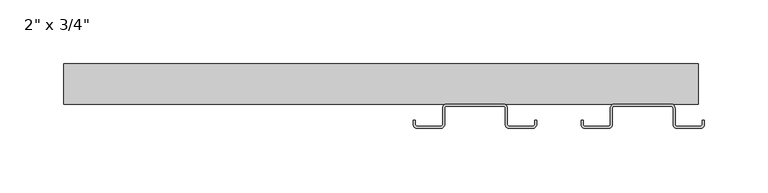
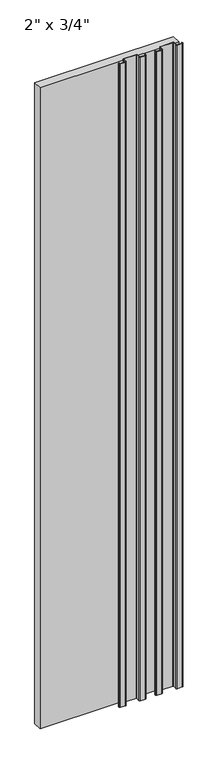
"""IFC4 building model written with IfcOpenShell, lengths in millimetres: plate geometry."""

from ifc_helpers import new_model, si_unit, point, frame, frame_2d, origin, origin_with_axes, place, context, project, spatial, polyline, circle_curve, trimmed, segment, composite_curve, outline, extrude, source, transform, mapped, element, save


def plate_de720d52(model_context):
    return source(origin(), model_context, "Body", "SweptSolid", [
        extrude(outline(composite_curve([segment(polyline([(157.1497998, 3.175), (157.1497998, 6.35), (158.7372998, 6.35), (158.7372998, 3.175)]), True, "CONTINUOUS"), segment(trimmed(circle_curve(frame_2d((160.3247998, 3.175)), 1.5875), [point((158.7372998, 3.175))], [point((160.3247998, 1.5875))], True, "CARTESIAN"), True, "CONTINUOUS"), segment(polyline([(160.3247998, 1.5875), (178.5873998, 1.5875)]), True, "CONTINUOUS"), segment(trimmed(circle_curve(frame_2d((178.5873998, 3.175)), 1.5875), [point((178.5873998, 1.5875))], [point((180.1748998, 3.175))], True, "CARTESIAN"), True, "CONTINUOUS"), segment(polyline([(180.1748998, 3.175), (180.1748998, 15.875)]), True, "CONTINUOUS"), segment(trimmed(circle_curve(frame_2d((183.3498998, 15.875)), 3.175), [point((180.1748998, 15.875))], [point((183.3498998, 19.05))], False, "CARTESIAN"), True, "CONTINUOUS"), segment(polyline([(183.3498998, 19.05), (227.7998998, 19.05)]), True, "CONTINUOUS"), segment(trimmed(circle_curve(frame_2d((227.7998998, 15.875)), 3.175), [point((227.7998998, 19.05))], [point((230.9748998, 15.875))], False, "CARTESIAN"), True, "CONTINUOUS"), segment(polyline([(230.9748998, 15.875), (230.9748998, 3.175)]), True, "CONTINUOUS"), segment(trimmed(circle_curve(frame_2d((232.5623998, 3.175)), 1.5875), [point((230.9748998, 3.175))], [point((232.5623998, 1.5875))], True, "CARTESIAN"), True, "CONTINUOUS"), segment(polyline([(232.5623998, 1.5875), (250.8249998, 1.5875)]), True, "CONTINUOUS"), segment(trimmed(circle_curve(frame_2d((250.8249998, 3.175)), 1.5875), [point((250.8249998, 1.5875))], [point((252.4124998, 3.175))], True, "CARTESIAN"), True, "CONTINUOUS"), segment(polyline([(252.4124998, 3.175), (252.4124998, 6.35), (253.9999998, 6.35), (253.9999998, 3.175)]), True, "CONTINUOUS"), segment(trimmed(circle_curve(frame_2d((250.8249998, 3.175)), 3.175), [point((253.9999998, 3.175))], [point((250.8249998, 0.0))], False, "CARTESIAN"), True, "CONTINUOUS"), segment(polyline([(250.8249998, 0.0), (232.5623998, 0.0)]), True, "CONTINUOUS"), segment(trimmed(circle_curve(frame_2d((232.5623998, 3.175)), 3.175), [point((232.5623998, 0.0))], [point((229.3873998, 3.175))], False, "CARTESIAN"), True, "CONTINUOUS"), segment(polyline([(229.3873998, 3.175), (229.3873998, 15.875)]), True, "CONTINUOUS"), segment(trimmed(circle_curve(frame_2d((227.7998998, 15.875)), 1.5875), [point((229.3873998, 15.875))], [point((227.7998998, 17.4625))], True, "CARTESIAN"), True, "CONTINUOUS"), segment(polyline([(227.7998998, 17.4625), (183.3498998, 17.4625)]), True, "CONTINUOUS"), segment(trimmed(circle_curve(frame_2d((183.3498998, 15.875)), 1.5875), [point((183.3498998, 17.4625))], [point((181.7623998, 15.875))], True, "CARTESIAN"), True, "CONTINUOUS"), segment(polyline([(181.7623998, 15.875), (181.7623998, 3.175)]), True, "CONTINUOUS"), segment(trimmed(circle_curve(frame_2d((178.5873998, 3.175)), 3.175), [point((181.7623998, 3.175))], [point((178.5873998, 0.0))], False, "CARTESIAN"), True, "CONTINUOUS"), segment(polyline([(178.5873998, 0.0), (160.3247998, 0.0)]), True, "CONTINUOUS"), segment(trimmed(circle_curve(frame_2d((160.3247998, 3.175)), 3.175), [point((160.3247998, 0.0))], [point((157.1497998, 3.175))], False, "CARTESIAN"), True, "CONTINUOUS")], self_intersect=False)), origin_with_axes(), (0.0, 0.0, 1.0), 2438.4),
        extrude(outline(composite_curve([segment(polyline([(25.4000002, 3.175), (25.4000002, 6.35), (26.9875002, 6.35), (26.9875002, 3.175)]), True, "CONTINUOUS"), segment(trimmed(circle_curve(frame_2d((28.5750002, 3.175)), 1.5875), [point((26.9875002, 3.175))], [point((28.5750002, 1.5875))], True, "CARTESIAN"), True, "CONTINUOUS"), segment(polyline([(28.5750002, 1.5875), (46.8376002, 1.5875)]), True, "CONTINUOUS"), segment(trimmed(circle_curve(frame_2d((46.8376002, 3.175)), 1.5875), [point((46.8376002, 1.5875))], [point((48.4251002, 3.175))], True, "CARTESIAN"), True, "CONTINUOUS"), segment(polyline([(48.4251002, 3.175), (48.4251002, 15.875)]), True, "CONTINUOUS"), segment(trimmed(circle_curve(frame_2d((51.6001002, 15.875)), 3.175), [point((48.4251002, 15.875))], [point((51.6001002, 19.05))], False, "CARTESIAN"), True, "CONTINUOUS"), segment(polyline([(51.6001002, 19.05), (96.0501002, 19.05)]), True, "CONTINUOUS"), segment(trimmed(circle_curve(frame_2d((96.0501002, 15.875)), 3.175), [point((96.0501002, 19.05))], [point((99.2251002, 15.875))], False, "CARTESIAN"), True, "CONTINUOUS"), segment(polyline([(99.2251002, 15.875), (99.2251002, 3.175)]), True, "CONTINUOUS"), segment(trimmed(circle_curve(frame_2d((100.8126002, 3.175)), 1.5875), [point((99.2251002, 3.175))], [point((100.8126002, 1.5875))], True, "CARTESIAN"), True, "CONTINUOUS"), segment(polyline([(100.8126002, 1.5875), (119.0752002, 1.5875)]), True, "CONTINUOUS"), segment(trimmed(circle_curve(frame_2d((119.0752002, 3.175)), 1.5875), [point((119.0752002, 1.5875))], [point((120.6627002, 3.175))], True, "CARTESIAN"), True, "CONTINUOUS"), segment(polyline([(120.6627002, 3.175), (120.6627002, 6.35), (122.2502002, 6.35), (122.2502002, 3.175)]), True, "CONTINUOUS"), segment(trimmed(circle_curve(frame_2d((119.0752002, 3.175)), 3.175), [point((122.2502002, 3.175))], [point((119.0752002, 0.0))], False, "CARTESIAN"), True, "CONTINUOUS"), segment(polyline([(119.0752002, 0.0), (100.8126002, 0.0)]), True, "CONTINUOUS"), segment(trimmed(circle_curve(frame_2d((100.8126002, 3.175)), 3.175), [point((100.8126002, 0.0))], [point((97.6376002, 3.175))], False, "CARTESIAN"), True, "CONTINUOUS"), segment(polyline([(97.6376002, 3.175), (97.6376002, 15.875)]), True, "CONTINUOUS"), segment(trimmed(circle_curve(frame_2d((96.0501002, 15.875)), 1.5875), [point((97.6376002, 15.875))], [point((96.0501002, 17.4625))], True, "CARTESIAN"), True, "CONTINUOUS"), segment(polyline([(96.0501002, 17.4625), (51.6001002, 17.4625)]), True, "CONTINUOUS"), segment(trimmed(circle_curve(frame_2d((51.6001002, 15.875)), 1.5875), [point((51.6001002, 17.4625))], [point((50.0126002, 15.875))], True, "CARTESIAN"), True, "CONTINUOUS"), segment(polyline([(50.0126002, 15.875), (50.0126002, 3.175)]), True, "CONTINUOUS"), segment(trimmed(circle_curve(frame_2d((46.8376002, 3.175)), 3.175), [point((50.0126002, 3.175))], [point((46.8376002, 0.0))], False, "CARTESIAN"), True, "CONTINUOUS"), segment(polyline([(46.8376002, 0.0), (28.5750002, 0.0)]), True, "CONTINUOUS"), segment(trimmed(circle_curve(frame_2d((28.5750002, 3.175)), 3.175), [point((28.5750002, 0.0))], [point((25.4000002, 3.175))], False, "CARTESIAN"), True, "CONTINUOUS")], self_intersect=False)), origin_with_axes(), (0.0, 0.0, 1.0), 2438.4),
        extrude(outline(polyline([(249.2374998, 19.05), (-249.2374998, 19.05), (-249.2374998, 50.8), (249.2374998, 50.8), (249.2374998, 19.05)])), frame((0.0, 0.0, 4.7625), z_axis=(0.0, 0.0, 1.0), x_axis=(1.0, 0.0, 0.0)), (0.0, 0.0, 1.0), 2428.875),
    ])


if __name__ == "__main__":
    model = new_model("IFC4")
    model_context = context("Model", 3, world=origin())
    ifc_project = project(units=[si_unit("LENGTHUNIT", "METRE", prefix="MILLI")], contexts=[model_context])
    site = spatial("IfcSite", under=ifc_project)
    building = spatial("IfcBuilding", under=site)
    placement = place(None, origin())
    plate_shape = plate_de720d52(model_context)
    element("IfcPlate", 1, ObjectType="KWS_Generic-Panel_w_PanelRail-V : 2\" x 3/4\"", at=placement, inside=building, context=model_context, shape_type="MappedRepresentation", body=[
        mapped(plate_shape, transform((0.0, 0.0, 0.0), x_axis=(1.0, 0.0, 0.0), y_axis=(0.0, 1.0, 0.0), z_axis=(0.0, 0.0, 1.0))),
    ])
    save(model, "model.ifc")
